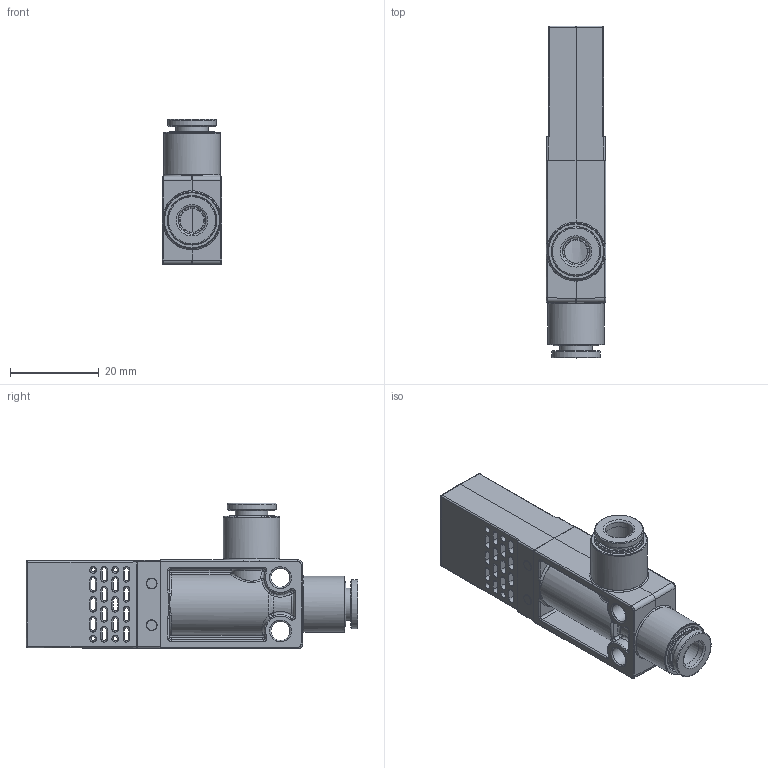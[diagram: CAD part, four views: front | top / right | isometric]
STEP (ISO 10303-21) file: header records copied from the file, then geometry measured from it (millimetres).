
FILE_DESCRIPTION(('STEP AP203'),'1');
FILE_NAME('BCVG-12-06.stp','2025-09-11T00:56:31',(' '),(' '),'Spatial InterOp 3D',' ',' ');
FILE_SCHEMA(('CONFIG_CONTROL_DESIGN'));
Length unit declared in the file: millimetre
Products named in the file (4): BCVG-12-06; 1
Assembly tree (3 placements, depth 2):
  BCVG-12-06
    1
    1
    BCVG-12-06
Bounding box: 13.4 x 74.75 x 32.75 mm (x, y, z)
Volume: 207.3 mm3; surface area: 9676.3 mm2
Topology: 2 solids, 871 shells, 883 faces, 4629 edges, 4524 vertices
Faces by surface type: cylinder 247, plane 235, cone 229, bspline 84, torus 52, sphere 36
Full cylindrical faces by diameter (mm): 2.2 x4, 2.3 x2, 2.4 x2, 4.3 x2, 6.25 x4, 7.3 x2, 7.5 x2, 7.8 x2, 8 x2, 9.17 x2, 10.2 x2, 10.25 x2, 11 x2, 12.7 x2
Entity records: 61943 total; most frequent: CARTESIAN_POINT 34442, ORIENTED_EDGE 4506, EDGE_CURVE 4492, VERTEX_POINT 4492, DIRECTION 3119, B_SPLINE_CURVE_WITH_KNOTS 2995, LINE 1481, VECTOR 1481
